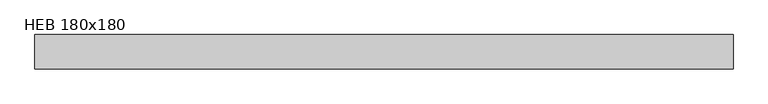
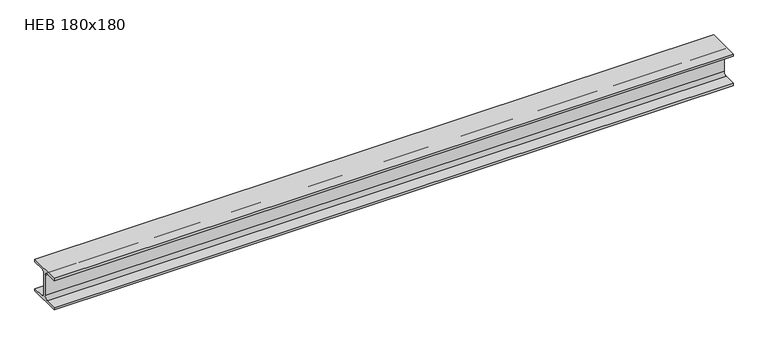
"""IFC4 building model written with IfcOpenShell, lengths in millimetres: beam geometry, M_HP-Bearing Pile : HEB 180x180."""

from ifc_helpers import new_model, si_unit, point, frame, frame_2d, origin, place, context, project, spatial, polyline, circle_curve, trimmed, segment, composite_curve, outline, extrude, source, transform, mapped, element, save


def heb_180x180_6f7749b3(model_context):
    return source(origin(), model_context, "Body", "SweptSolid", [
        extrude(outline(composite_curve([segment(polyline([(90.0, -76.9), (90.0, -90.0), (-90.0, -90.0), (-90.0, -76.9), (-25.45, -76.9)]), True, "CONTINUOUS"), segment(trimmed(circle_curve(frame_2d((-25.45, -58.0)), 18.9), [point((-25.45, -76.9))], [point((-6.55, -58.0))], True, "CARTESIAN"), True, "CONTINUOUS"), segment(polyline([(-6.55, -58.0), (-6.55, 58.0)]), True, "CONTINUOUS"), segment(trimmed(circle_curve(frame_2d((-25.45, 58.0)), 18.9), [point((-6.55, 58.0))], [point((-25.45, 76.9))], True, "CARTESIAN"), True, "CONTINUOUS"), segment(polyline([(-25.45, 76.9), (-90.0, 76.9), (-90.0, 90.0), (90.0, 90.0), (90.0, 76.9), (25.45, 76.9)]), True, "CONTINUOUS"), segment(trimmed(circle_curve(frame_2d((25.45, 58.0)), 18.9), [point((25.45, 76.9))], [point((6.55, 58.0))], True, "CARTESIAN"), True, "CONTINUOUS"), segment(polyline([(6.55, 58.0), (6.55, -58.0)]), True, "CONTINUOUS"), segment(trimmed(circle_curve(frame_2d((25.45, -58.0)), 18.9), [point((6.55, -58.0))], [point((25.45, -76.9))], True, "CARTESIAN"), True, "CONTINUOUS"), segment(polyline([(25.45, -76.9), (90.0, -76.9)]), True, "CONTINUOUS")], self_intersect=False)), frame((-1801.0177144, 0.0, 0.0), z_axis=(1.0, 0.0, 0.0), x_axis=(0.0, 1.0, 0.0)), (0.0, 0.0, 1.0), 3659.0354351),
    ])


if __name__ == "__main__":
    model = new_model("IFC4")
    model_context = context("Model", 3, world=origin())
    ifc_project = project(units=[si_unit("LENGTHUNIT", "METRE", prefix="MILLI")], contexts=[model_context])
    site = spatial("IfcSite", under=ifc_project)
    building = spatial("IfcBuilding", under=site)
    placement = place(None, origin())
    heb_180x180_shape = heb_180x180_6f7749b3(model_context)
    element("IfcBeam", 1, ObjectType="M_HP-Bearing Pile : HEB 180x180", at=placement, inside=building, context=model_context, shape_type="MappedRepresentation", body=[
        mapped(heb_180x180_shape, transform((0.0, 0.0, 0.0), x_axis=(1.0, 0.0, 0.0), y_axis=(0.0, 1.0, 0.0), z_axis=(0.0, 0.0, 1.0))),
    ])
    save(model, "model.ifc")
